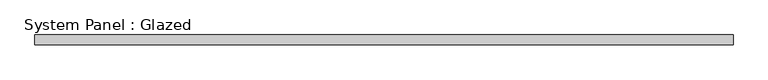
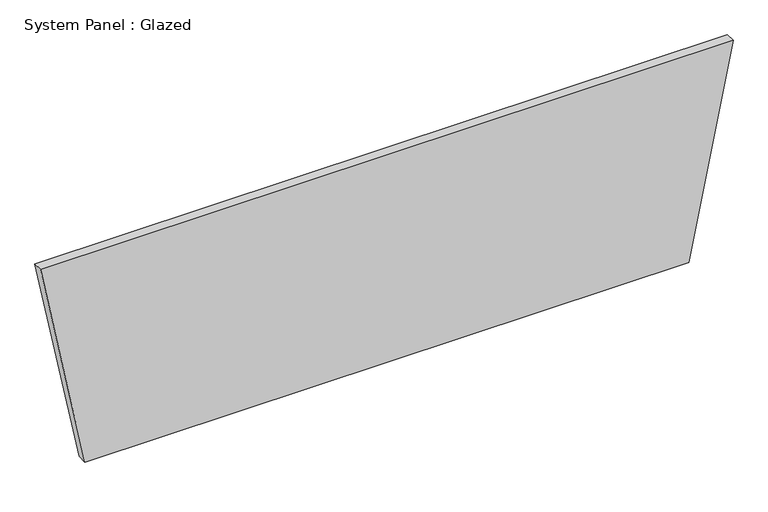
"""IFC4 building model written with IfcOpenShell, lengths in millimetres: plate geometry, System Panel : Glazed."""

from ifc_helpers import new_model, si_unit, frame, origin, place, context, project, spatial, polyline, outline, extrude, source, transform, mapped, element, save


def system_panel_glazed_5bffbcfe(model_context):
    return source(origin(), model_context, "Body", "SweptSolid", [
        extrude(outline(polyline([(0.0, -787.5810944), (0.0, 787.5810944), (572.0638084, 903.469289), (572.0638084, -903.469289), (0.0, -787.5810944)])), frame((0.0, -44.45, 0.0), z_axis=(0.0, 1.0, 0.0), x_axis=(0.0, 0.0, 1.0)), (0.0, 0.0, 1.0), 25.4),
    ])


if __name__ == "__main__":
    model = new_model("IFC4")
    model_context = context("Model", 3, world=origin())
    ifc_project = project(units=[si_unit("LENGTHUNIT", "METRE", prefix="MILLI")], contexts=[model_context])
    site = spatial("IfcSite", under=ifc_project)
    building = spatial("IfcBuilding", under=site)
    placement = place(None, origin())
    system_panel_glazed_shape = system_panel_glazed_5bffbcfe(model_context)
    element("IfcPlate", 1, ObjectType="System Panel : Glazed", at=placement, inside=building, context=model_context, shape_type="MappedRepresentation", body=[
        mapped(system_panel_glazed_shape, transform((0.0, 0.0, 0.0), x_axis=(1.0, 0.0, 0.0), y_axis=(0.0, 1.0, 0.0), z_axis=(0.0, 0.0, 1.0))),
    ])
    save(model, "model.ifc")
